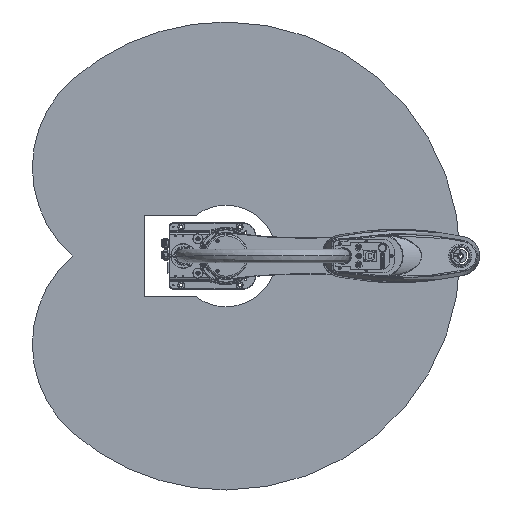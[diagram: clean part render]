
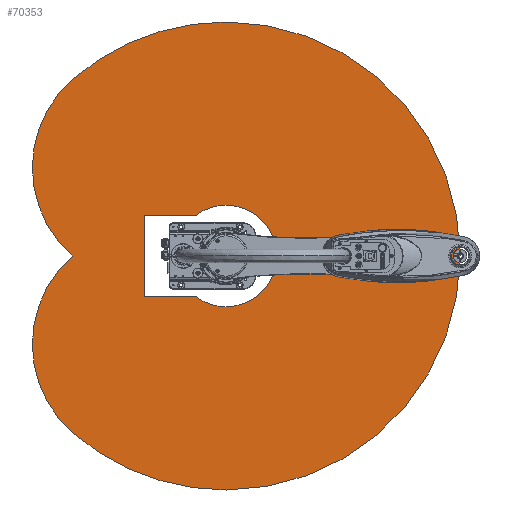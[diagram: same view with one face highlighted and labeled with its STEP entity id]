
A CAD part, left-side view. The second image highlights one B-rep face of the part: STEP entity #70353.
In plain terms, the highlighted planar face has unit normal (-1, 0, 0) as drawn and (0, 0, 1) by its records, which use the part's own axes.
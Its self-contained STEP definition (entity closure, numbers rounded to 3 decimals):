
#3416 = CIRCLE ( 'NONE', #87141, 300. ) ;
#3920 = CARTESIAN_POINT ( 'NONE',  ( 105., -210., 150. ) ) ;
#4083 = ORIENTED_EDGE ( 'NONE', *, *, #37167, .F. ) ;
#5187 = DIRECTION ( 'NONE',  ( 0., 0., -1. ) ) ;
#6731 = CARTESIAN_POINT ( 'NONE',  ( 0., 0., 150. ) ) ;
#8715 = DIRECTION ( 'NONE',  ( 0., 0., -1. ) ) ;
#9348 = CIRCLE ( 'NONE', #65274, 600. ) ;
#9815 = VERTEX_POINT ( 'NONE', #16510 ) ;
#11074 = AXIS2_PLACEMENT_3D ( 'NONE', #54857, #95821, #96501 ) ;
#11914 = CIRCLE ( 'NONE', #46416, 130. ) ;
#16510 = CARTESIAN_POINT ( 'NONE',  ( -130., 0., 150. ) ) ;
#16683 = AXIS2_PLACEMENT_3D ( 'NONE', #84107, #54544, #94184 ) ;
#17108 = DIRECTION ( 'NONE',  ( 0., 0., -1. ) ) ;
#17229 = CIRCLE ( 'NONE', #19608, 300. ) ;
#17567 = VERTEX_POINT ( 'NONE', #122246 ) ;
#18013 = AXIS2_PLACEMENT_3D ( 'NONE', #6731, #8715, #118330 ) ;
#19608 = AXIS2_PLACEMENT_3D ( 'NONE', #19686, #49375, #48056 ) ;
#19677 = VERTEX_POINT ( 'NONE', #131775 ) ;
#19686 = CARTESIAN_POINT ( 'NONE',  ( -226.413, -196.818, 150. ) ) ;
#25586 = EDGE_CURVE ( 'NONE', #33412, #9815, #11914, .T. ) ;
#27608 = DIRECTION ( 'NONE',  ( 0., 1., 0. ) ) ;
#28262 = CARTESIAN_POINT ( 'NONE',  ( 105., -76.649, 150. ) ) ;
#31628 = CARTESIAN_POINT ( 'NONE',  ( 0., 0., 150. ) ) ;
#32581 = EDGE_CURVE ( 'NONE', #9815, #80409, #91809, .T. ) ;
#32729 = LINE ( 'NONE', #54250, #113557 ) ;
#33412 = VERTEX_POINT ( 'NONE', #115017 ) ;
#35778 = EDGE_CURVE ( 'NONE', #94945, #51491, #32729, .T. ) ;
#37167 = EDGE_CURVE ( 'NONE', #105504, #17567, #130992, .T. ) ;
#39115 = DIRECTION ( 'NONE',  ( 0., 0., -1. ) ) ;
#41268 = PLANE ( 'NONE',  #91710 ) ;
#44946 = DIRECTION ( 'NONE',  ( -1., 0., 0. ) ) ;
#46416 = AXIS2_PLACEMENT_3D ( 'NONE', #68912, #17108, #44946 ) ;
#46456 = CARTESIAN_POINT ( 'NONE',  ( 226.413, -196.818, 150. ) ) ;
#46767 = ORIENTED_EDGE ( 'NONE', *, *, #64454, .T. ) ;
#46972 = DIRECTION ( 'NONE',  ( -1., 0., 0. ) ) ;
#48056 = DIRECTION ( 'NONE',  ( -1., 0., 0. ) ) ;
#49375 = DIRECTION ( 'NONE',  ( 0., 0., -1. ) ) ;
#49798 = CARTESIAN_POINT ( 'NONE',  ( -105., -76.649, 150. ) ) ;
#50200 = CARTESIAN_POINT ( 'NONE',  ( -105., -210., 150. ) ) ;
#50687 = FACE_BOUND ( 'NONE', #104973, .T. ) ;
#51491 = VERTEX_POINT ( 'NONE', #3920 ) ;
#54250 = CARTESIAN_POINT ( 'NONE',  ( -105., -210., 150. ) ) ;
#54544 = DIRECTION ( 'NONE',  ( 0., 0., -1. ) ) ;
#54857 = CARTESIAN_POINT ( 'NONE',  ( 0., 0., 150. ) ) ;
#55694 = CARTESIAN_POINT ( 'NONE',  ( 0., 0., 150. ) ) ;
#61826 = EDGE_CURVE ( 'NONE', #17567, #19677, #92672, .T. ) ;
#64454 = EDGE_CURVE ( 'NONE', #80409, #66866, #78154, .T. ) ;
#64493 = EDGE_CURVE ( 'NONE', #33412, #94945, #79389, .T. ) ;
#65274 = AXIS2_PLACEMENT_3D ( 'NONE', #31628, #39115, #80095 ) ;
#66334 = EDGE_CURVE ( 'NONE', #104757, #105504, #9348, .T. ) ;
#66866 = VERTEX_POINT ( 'NONE', #72676 ) ;
#68912 = CARTESIAN_POINT ( 'NONE',  ( 0., 0., 150. ) ) ;
#70353 = ADVANCED_FACE ( 'N', ( #50687, #131915 ), #41268, .T. ) ;
#72676 = CARTESIAN_POINT ( 'NONE',  ( 105., -76.649, 150. ) ) ;
#72836 = DIRECTION ( 'NONE',  ( 0., 0., 1. ) ) ;
#75855 = CARTESIAN_POINT ( 'NONE',  ( 0., -393.635, 150. ) ) ;
#78154 = CIRCLE ( 'NONE', #18013, 130. ) ;
#79389 = LINE ( 'NONE', #49798, #121044 ) ;
#80095 = DIRECTION ( 'NONE',  ( -1., 0., 0. ) ) ;
#80409 = VERTEX_POINT ( 'NONE', #83627 ) ;
#80692 = LINE ( 'NONE', #28262, #110717 ) ;
#81586 = CARTESIAN_POINT ( 'NONE',  ( 113.206, -98.409, 150. ) ) ;
#83576 = VERTEX_POINT ( 'NONE', #75855 ) ;
#83627 = CARTESIAN_POINT ( 'NONE',  ( 130., 0., 150. ) ) ;
#84019 = CARTESIAN_POINT ( 'NONE',  ( -600., 0., 150. ) ) ;
#84107 = CARTESIAN_POINT ( 'NONE',  ( 0., 0., 150. ) ) ;
#85126 = ORIENTED_EDGE ( 'NONE', *, *, #61826, .F. ) ;
#87141 = AXIS2_PLACEMENT_3D ( 'NONE', #46456, #126992, #115619 ) ;
#89396 = ORIENTED_EDGE ( 'NONE', *, *, #35778, .F. ) ;
#89707 = ORIENTED_EDGE ( 'NONE', *, *, #66334, .F. ) ;
#90747 = DIRECTION ( 'NONE',  ( 0., -1., 0. ) ) ;
#91205 = EDGE_CURVE ( 'NONE', #19677, #83576, #3416, .T. ) ;
#91710 = AXIS2_PLACEMENT_3D ( 'NONE', #81586, #72836, #113787 ) ;
#91809 = CIRCLE ( 'NONE', #16683, 130. ) ;
#92672 = CIRCLE ( 'NONE', #11074, 600. ) ;
#94184 = DIRECTION ( 'NONE',  ( -1., 0., 0. ) ) ;
#94945 = VERTEX_POINT ( 'NONE', #50200 ) ;
#95821 = DIRECTION ( 'NONE',  ( 0., 0., -1. ) ) ;
#96501 = DIRECTION ( 'NONE',  ( -1., 0., 0. ) ) ;
#98102 = EDGE_LOOP ( 'NONE', ( #89707, #132487, #100188, #85126, #4083 ) ) ;
#100033 = EDGE_CURVE ( 'NONE', #83576, #104757, #17229, .T. ) ;
#100188 = ORIENTED_EDGE ( 'NONE', *, *, #91205, .F. ) ;
#101017 = ORIENTED_EDGE ( 'NONE', *, *, #64493, .F. ) ;
#103086 = AXIS2_PLACEMENT_3D ( 'NONE', #55694, #5187, #46972 ) ;
#104757 = VERTEX_POINT ( 'NONE', #113754 ) ;
#104973 = EDGE_LOOP ( 'NONE', ( #106285, #89396, #101017, #122580, #115577, #46767 ) ) ;
#105504 = VERTEX_POINT ( 'NONE', #84019 ) ;
#106218 = EDGE_CURVE ( 'NONE', #51491, #66866, #80692, .T. ) ;
#106285 = ORIENTED_EDGE ( 'NONE', *, *, #106218, .F. ) ;
#110717 = VECTOR ( 'NONE', #27608, 1000. ) ;
#113557 = VECTOR ( 'NONE', #124746, 1000. ) ;
#113754 = CARTESIAN_POINT ( 'NONE',  ( -452.826, -393.635, 150. ) ) ;
#113787 = DIRECTION ( 'NONE',  ( 1., 0., 0. ) ) ;
#115017 = CARTESIAN_POINT ( 'NONE',  ( -105., -76.649, 150. ) ) ;
#115577 = ORIENTED_EDGE ( 'NONE', *, *, #32581, .T. ) ;
#115619 = DIRECTION ( 'NONE',  ( -1., 0., 0. ) ) ;
#118330 = DIRECTION ( 'NONE',  ( -1., 0., 0. ) ) ;
#121044 = VECTOR ( 'NONE', #90747, 1000. ) ;
#122246 = CARTESIAN_POINT ( 'NONE',  ( 600., 0., 150. ) ) ;
#122580 = ORIENTED_EDGE ( 'NONE', *, *, #25586, .T. ) ;
#124746 = DIRECTION ( 'NONE',  ( 1., 0., 0. ) ) ;
#126992 = DIRECTION ( 'NONE',  ( 0., 0., -1. ) ) ;
#130992 = CIRCLE ( 'NONE', #103086, 600. ) ;
#131775 = CARTESIAN_POINT ( 'NONE',  ( 452.826, -393.635, 150. ) ) ;
#131915 = FACE_OUTER_BOUND ( 'NONE', #98102, .T. ) ;
#132487 = ORIENTED_EDGE ( 'NONE', *, *, #100033, .F. ) ;
